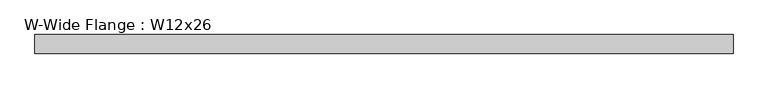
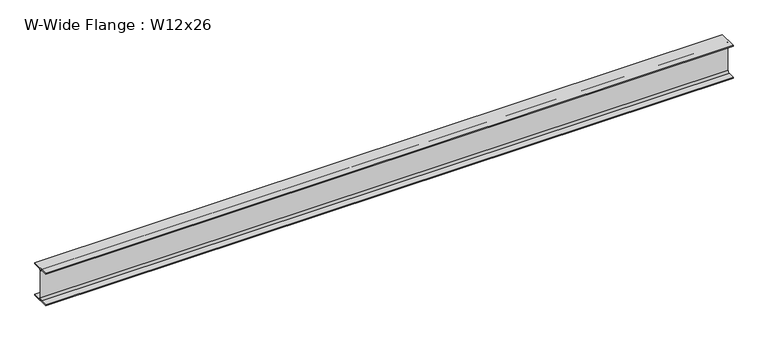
"""IFC4 building model written with IfcOpenShell, lengths in millimetres: beam geometry, W-Wide Flange : W12x26."""

from ifc_helpers import new_model, si_unit, point, frame, frame_2d, origin, place, context, project, spatial, polyline, circle_curve, trimmed, segment, composite_curve, outline, extrude, source, transform, mapped, element, save


def w_wide_flange_w12x26_bc60cd37(model_context):
    return source(origin(), model_context, "Body", "SweptSolid", [
        extrude(outline(composite_curve([segment(polyline([(82.423, -145.288), (82.423, -154.94), (-82.423, -154.94), (-82.423, -145.288), (-20.2565, -145.288)]), True, "CONTINUOUS"), segment(trimmed(circle_curve(frame_2d((-20.2565, -127.9525)), 17.3355), [point((-20.2565, -145.288))], [point((-2.921, -127.9525))], True, "CARTESIAN"), True, "CONTINUOUS"), segment(polyline([(-2.921, -127.9525), (-2.921, 127.9525)]), True, "CONTINUOUS"), segment(trimmed(circle_curve(frame_2d((-20.2565, 127.9525)), 17.3355), [point((-2.921, 127.9525))], [point((-20.2565, 145.288))], True, "CARTESIAN"), True, "CONTINUOUS"), segment(polyline([(-20.2565, 145.288), (-82.423, 145.288), (-82.423, 154.94), (82.423, 154.94), (82.423, 145.288), (20.2565, 145.288)]), True, "CONTINUOUS"), segment(trimmed(circle_curve(frame_2d((20.2565, 127.9525)), 17.3355), [point((20.2565, 145.288))], [point((2.921, 127.9525))], True, "CARTESIAN"), True, "CONTINUOUS"), segment(polyline([(2.921, 127.9525), (2.921, -127.9525)]), True, "CONTINUOUS"), segment(trimmed(circle_curve(frame_2d((20.2565, -127.9525)), 17.3355), [point((2.921, -127.9525))], [point((20.2565, -145.288))], True, "CARTESIAN"), True, "CONTINUOUS"), segment(polyline([(20.2565, -145.288), (82.423, -145.288)]), True, "CONTINUOUS")], self_intersect=False)), frame((-3113.913, 0.0, 0.0), z_axis=(1.0, 0.0, 0.0), x_axis=(0.0, 1.0, 0.0)), (0.0, 0.0, 1.0), 6168.263),
    ])


if __name__ == "__main__":
    model = new_model("IFC4")
    model_context = context("Model", 3, world=origin())
    ifc_project = project(units=[si_unit("LENGTHUNIT", "METRE", prefix="MILLI")], contexts=[model_context])
    site = spatial("IfcSite", under=ifc_project)
    building = spatial("IfcBuilding", under=site)
    placement = place(None, origin())
    w_wide_flange_w12x26_shape = w_wide_flange_w12x26_bc60cd37(model_context)
    element("IfcBeam", 1, ObjectType="W-Wide Flange : W12x26", at=placement, inside=building, context=model_context, shape_type="MappedRepresentation", body=[
        mapped(w_wide_flange_w12x26_shape, transform((0.0, 0.0, 0.0), x_axis=(1.0, 0.0, 0.0), y_axis=(0.0, 1.0, 0.0), z_axis=(0.0, 0.0, 1.0))),
    ])
    save(model, "model.ifc")
